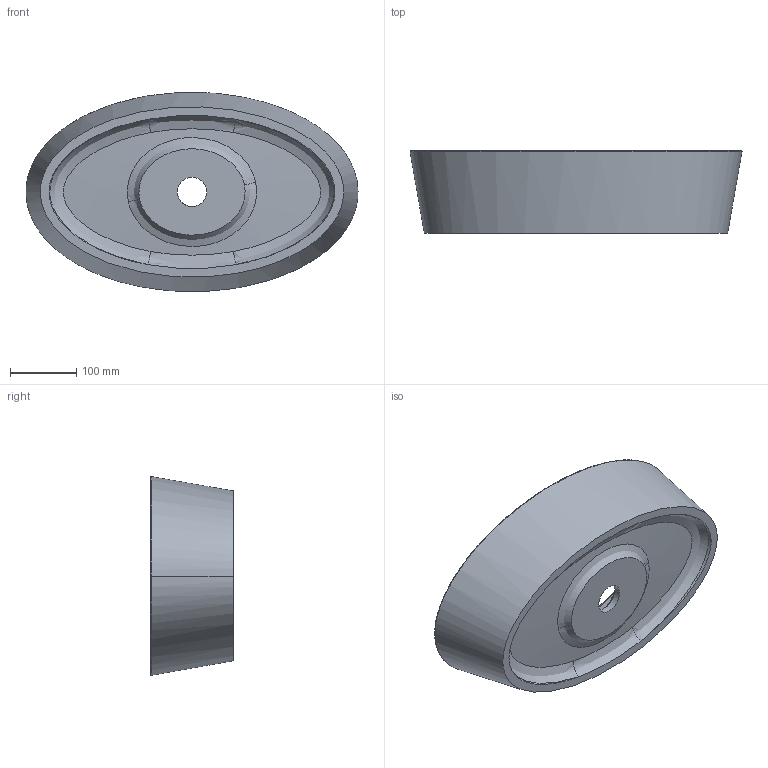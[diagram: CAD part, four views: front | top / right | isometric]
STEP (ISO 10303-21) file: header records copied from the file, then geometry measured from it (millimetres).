
FILE_DESCRIPTION(/* description */ (''),/* implementation_level */ '2;1');
FILE_NAME(/* name */ 'c:\worker\convert-fusion-apr-2019\tmp\job-1\5\output\files\1e3bbdce-ccd5-43d9-8cd5-126f434fb0e7\3aa39359-1ada-4e1b-8f08-eb99a7da2927.stp',/* time_stamp */ '2019-04-03T10:35:48+00:00',/* author */ (''),/* organization */ (''),/* preprocessor_version */ 'ST-DEVELOPER v18',/* originating_system */ 'Autodesk Translation Framework v8.2.0.1029',/* authorisation */ '');
FILE_SCHEMA (('AUTOMOTIVE_DESIGN { 1 0 10303 214 3 1 1 }'));
Length unit declared in the file: millimetre
Products named in the file (1): Siena UN
Bounding box: 499.99 x 124 x 299.84 mm (x, y, z)
Volume: 3289140.8 mm3; surface area: 454688.5 mm2
Topology: 1 solids, 1 shells, 28 faces, 80 edges, 55 vertices
Faces by surface type: bspline 20, cone 3, plane 3, cylinder 1, torus 1
Full cylindrical faces by diameter (mm): 44 x1
Entity records: 12177 total; most frequent: CARTESIAN_POINT 11540, ORIENTED_EDGE 160, EDGE_CURVE 80, DIRECTION 76, VERTEX_POINT 55, B_SPLINE_CURVE_WITH_KNOTS 46, AXIS2_PLACEMENT_3D 33, EDGE_LOOP 31
